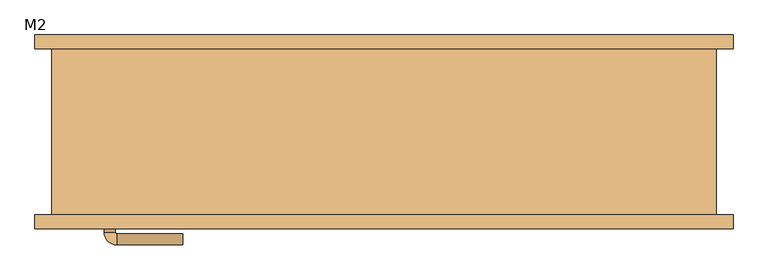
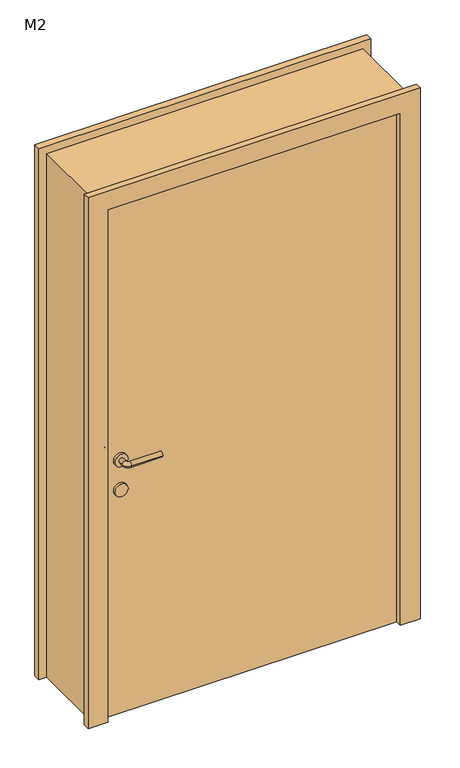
"""IFC4 building model written with IfcOpenShell, lengths in millimetres: door geometry, 单嵌板木门 1 : M2."""

from ifc_helpers import new_model, si_unit, point, frame, frame_2d, origin, origin_with_axes, place, context, project, spatial, polyline, circle_curve, ellipse_curve, trimmed, segment, composite_curve, outline, extrude, source, transform, mapped, element, save
from ifc_brep_helpers import plane_surface, cylinder_surface, revolved_surface, advanced_brep


def m2_fd2fcc41(model_context):
    return source(origin(), model_context, "Body", "SolidModel", [
        extrude(outline(composite_curve([segment(trimmed(circle_curve(frame_2d((900.0, -495.0)), 25.0), [point((900.0, -470.0))], [point((900.0, -520.0))], False, "CARTESIAN"), True, "CONTINUOUS"), segment(trimmed(circle_curve(frame_2d((900.0, -495.0)), 25.0), [point((900.0, -520.0))], [point((900.0, -470.0))], False, "CARTESIAN"), True, "CONTINUOUS")], self_intersect=False)), frame((0.0, -100.0, 0.0), z_axis=(0.0, 1.0, 0.0), x_axis=(0.0, 0.0, 1.0)), (0.0, 0.0, 1.0), 10.0),
        extrude(outline(composite_curve([segment(trimmed(circle_curve(frame_2d((900.0, -495.0)), 25.0), [point((900.0, -470.0))], [point((900.0, -520.0))], False, "CARTESIAN"), True, "CONTINUOUS"), segment(trimmed(circle_curve(frame_2d((900.0, -495.0)), 25.0), [point((900.0, -520.0))], [point((900.0, -470.0))], False, "CARTESIAN"), True, "CONTINUOUS")], self_intersect=False)), frame((0.0, -160.0, 0.0), z_axis=(0.0, 1.0, 0.0), x_axis=(0.0, 0.0, 1.0)), (0.0, 0.0, 1.0), 10.0),
        advanced_brep(
        [(-505.0, -90.0, 1020.0), (-485.0, -90.0, 1020.0), (-505.0, -69.3866449, 1020.0), (-485.0, -69.3866449, 1020.0), (-363.419036, -46.419036, 1020.0), (-363.419036, -66.419036, 1020.0), (-482.0323911, -66.419036, 1020.0), (-482.0323911, -46.419036, 1020.0)],
        [
            (0, 1, circle_curve(frame((-495.0, -90.0, 1020.0), z_axis=(0.0, -1.0, 0.0), x_axis=(1.0, 0.0, 0.0)), 10.0)),
            (1, 0, circle_curve(frame((-495.0, -90.0, 1020.0), z_axis=(0.0, -1.0, 0.0), x_axis=(1.0, 0.0, 0.0)), 10.0)),
            (0, 2),
            (2, 3, circle_curve(frame((-495.0, -69.3866449, 1020.0), z_axis=(0.0, -1.0, 0.0), x_axis=(1.0, 0.0, 0.0)), 10.0)),
            (3, 1),
            (3, 2, circle_curve(frame((-495.0, -69.3866449, 1020.0), z_axis=(0.0, -1.0, 0.0), x_axis=(1.0, 0.0, 0.0)), 10.0)),
            (4, 5, circle_curve(frame((-363.419036, -56.419036, 1020.0), z_axis=(1.0, 0.0, 0.0), x_axis=(0.0, -1.0, 0.0)), 10.0)),
            (5, 4, circle_curve(frame((-363.419036, -56.419036, 1020.0), z_axis=(1.0, 0.0, 0.0), x_axis=(0.0, -1.0, 0.0)), 10.0)),
            (6, 7, circle_curve(frame((-482.0323911, -56.419036, 1020.0), z_axis=(-1.0, 0.0, 0.0), x_axis=(0.0, -1.0, 0.0)), 10.0)),
            (7, 2, circle_curve(frame((-482.0323911, -69.3866449, 1020.0), z_axis=(0.0, 0.0, 1.0), x_axis=(-1.0, 0.0, 0.0)), 22.9676089)),
            (3, 6, circle_curve(frame((-482.0323911, -69.3866449, 1020.0), z_axis=(0.0, 0.0, -1.0), x_axis=(-1.0, 0.0, 0.0)), 2.9676089)),
            (7, 6, circle_curve(frame((-482.0323911, -56.419036, 1020.0), z_axis=(-1.0, 0.0, 0.0), x_axis=(0.0, -1.0, 0.0)), 10.0)),
            (6, 5),
            (4, 7),
        ],
        [
            plane_surface(frame((-495.0, -90.0, 900.0), z_axis=(0.0, -1.0, 0.0), x_axis=(0.0, 0.0, 1.0))),
            cylinder_surface(frame((-495.0, -90.0, 1020.0), z_axis=(0.0, -1.0, 0.0), x_axis=(1.0, 0.0, 0.0)), 10.0),
            plane_surface(frame((-363.419036, -56.419036, 900.0), z_axis=(1.0, 0.0, 0.0), x_axis=(0.0, 0.0, 1.0))),
            revolved_surface(trimmed(ellipse_curve(frame((-495.0, -69.3866449, 1020.0), z_axis=(0.0, 1.0, 0.0), x_axis=(1.0, 0.0, 0.0)), 10.0, 10.0), [point((-505.0, -69.3866449, 1020.0))], [point((-485.0, -69.3866449, 1020.0))], True, "CARTESIAN"), (-482.0323911, -69.3866449, 900.0), (0.0, 0.0, 1.0)),
            revolved_surface(trimmed(ellipse_curve(frame((-495.0, -69.3866449, 1020.0), z_axis=(0.0, 1.0, 0.0), x_axis=(1.0, 0.0, 0.0)), 10.0, 10.0), [point((-485.0, -69.3866449, 1020.0))], [point((-505.0, -69.3866449, 1020.0))], True, "CARTESIAN"), (-482.0323911, -69.3866449, 900.0), (0.0, 0.0, 1.0)),
            cylinder_surface(frame((-482.0323911, -56.419036, 1020.0), z_axis=(-1.0, 0.0, 0.0), x_axis=(0.0, -1.0, 0.0)), 10.0),
        ],
        [
            (0, [[1, 2]]),
            (1, [[3, 4, 5, -1]]),
            (1, [[-5, 6, -3, -2]]),
            (2, [[7, 8]]),
            (3, [[9, 10, -6, 11]]),
            (4, [[12, -11, -4, -10]]),
            (5, [[13, -7, 14, -9]]),
            (5, [[-14, -8, -13, -12]]),
        ],
    ),
        extrude(outline(composite_curve([segment(trimmed(circle_curve(frame_2d((1020.0, -495.0)), 25.0), [point((1020.0, -470.0))], [point((1020.0, -520.0))], False, "CARTESIAN"), True, "CONTINUOUS"), segment(trimmed(circle_curve(frame_2d((1020.0, -495.0)), 25.0), [point((1020.0, -520.0))], [point((1020.0, -470.0))], False, "CARTESIAN"), True, "CONTINUOUS")], self_intersect=False)), frame((0.0, -100.0, 0.0), z_axis=(0.0, 1.0, 0.0), x_axis=(0.0, 0.0, 1.0)), (0.0, 0.0, 1.0), 10.0),
        advanced_brep(
        [(-485.0, -160.0, 1020.0), (-505.0, -160.0, 1020.0), (-505.0, -180.6133551, 1020.0), (-485.0, -180.6133551, 1020.0), (-363.419036, -183.580964, 1020.0), (-363.419036, -203.580964, 1020.0), (-482.0323911, -203.580964, 1020.0), (-482.0323911, -183.580964, 1020.0)],
        [
            (0, 1, circle_curve(frame((-495.0, -160.0, 1020.0), z_axis=(0.0, 1.0, 0.0), x_axis=(-1.0, 0.0, 0.0)), 10.0)),
            (1, 0, circle_curve(frame((-495.0, -160.0, 1020.0), z_axis=(0.0, 1.0, 0.0), x_axis=(-1.0, 0.0, 0.0)), 10.0)),
            (1, 2),
            (2, 3, circle_curve(frame((-495.0, -180.6133551, 1020.0), z_axis=(0.0, 1.0, 0.0), x_axis=(-1.0, 0.0, 0.0)), 10.0)),
            (3, 0),
            (3, 2, circle_curve(frame((-495.0, -180.6133551, 1020.0), z_axis=(0.0, 1.0, 0.0), x_axis=(-1.0, 0.0, 0.0)), 10.0)),
            (4, 5, circle_curve(frame((-363.419036, -193.580964, 1020.0), z_axis=(1.0, 0.0, 0.0), x_axis=(0.0, -1.0, 0.0)), 10.0)),
            (5, 4, circle_curve(frame((-363.419036, -193.580964, 1020.0), z_axis=(1.0, 0.0, 0.0), x_axis=(0.0, -1.0, 0.0)), 10.0)),
            (6, 7, circle_curve(frame((-482.0323911, -193.580964, 1020.0), z_axis=(-1.0, 0.0, 0.0), x_axis=(0.0, -1.0, 0.0)), 10.0)),
            (7, 3, circle_curve(frame((-482.0323911, -180.6133551, 1020.0), z_axis=(0.0, 0.0, -1.0), x_axis=(-1.0, 0.0, 0.0)), 2.9676089)),
            (2, 6, circle_curve(frame((-482.0323911, -180.6133551, 1020.0), z_axis=(0.0, 0.0, 1.0), x_axis=(-1.0, 0.0, 0.0)), 22.9676089)),
            (7, 6, circle_curve(frame((-482.0323911, -193.580964, 1020.0), z_axis=(-1.0, 0.0, 0.0), x_axis=(0.0, -1.0, 0.0)), 10.0)),
            (6, 5),
            (4, 7),
        ],
        [
            plane_surface(frame((-495.0, -160.0, 900.0), z_axis=(0.0, 1.0, 0.0), x_axis=(0.0, 0.0, 1.0))),
            cylinder_surface(frame((-495.0, -160.0, 1020.0), z_axis=(0.0, 1.0, 0.0), x_axis=(-1.0, 0.0, 0.0)), 10.0),
            plane_surface(frame((-363.419036, -193.580964, 900.0), z_axis=(1.0, 0.0, 0.0), x_axis=(0.0, 0.0, 1.0))),
            revolved_surface(trimmed(ellipse_curve(frame((-495.0, -180.6133551, 1020.0), z_axis=(0.0, -1.0, 0.0), x_axis=(-1.0, 0.0, 0.0)), 10.0, 10.0), [point((-485.0, -180.6133551, 1020.0))], [point((-505.0, -180.6133551, 1020.0))], True, "CARTESIAN"), (-482.0323911, -180.6133551, 900.0), (0.0, 0.0, -1.0)),
            revolved_surface(trimmed(ellipse_curve(frame((-495.0, -180.6133551, 1020.0), z_axis=(0.0, -1.0, 0.0), x_axis=(-1.0, 0.0, 0.0)), 10.0, 10.0), [point((-505.0, -180.6133551, 1020.0))], [point((-485.0, -180.6133551, 1020.0))], True, "CARTESIAN"), (-482.0323911, -180.6133551, 900.0), (0.0, 0.0, -1.0)),
            cylinder_surface(frame((-482.0323911, -193.580964, 1020.0), z_axis=(-1.0, 0.0, 0.0), x_axis=(0.0, -1.0, 0.0)), 10.0),
        ],
        [
            (0, [[1, 2]]),
            (1, [[3, 4, 5, -2]]),
            (1, [[-5, 6, -3, -1]]),
            (2, [[7, 8]]),
            (3, [[9, 10, -4, 11]]),
            (4, [[12, -11, -6, -10]]),
            (5, [[13, -7, 14, -9]]),
            (5, [[-14, -8, -13, -12]]),
        ],
    ),
        extrude(outline(composite_curve([segment(trimmed(circle_curve(frame_2d((1020.0, -495.0)), 25.0), [point((1020.0, -470.0))], [point((1020.0, -520.0))], False, "CARTESIAN"), True, "CONTINUOUS"), segment(trimmed(circle_curve(frame_2d((1020.0, -495.0)), 25.0), [point((1020.0, -520.0))], [point((1020.0, -470.0))], False, "CARTESIAN"), True, "CONTINUOUS")], self_intersect=False)), frame((0.0, -160.0, 0.0), z_axis=(0.0, 1.0, 0.0), x_axis=(0.0, 0.0, 1.0)), (0.0, 0.0, 1.0), 10.0),
        extrude(outline(polyline([(0.0, 630.0), (2130.0, 630.0), (2130.0, -630.0), (0.0, -630.0), (0.0, -555.0), (2055.0, -555.0), (2055.0, 555.0), (0.0, 555.0), (0.0, 630.0)])), frame((0.0, -175.0, 0.0), z_axis=(0.0, 1.0, 0.0), x_axis=(0.0, 0.0, 1.0)), (0.0, 0.0, 1.0), 25.0),
        extrude(outline(polyline([(2130.0, 630.0), (2130.0, -630.0), (0.0, -630.0), (0.0, -555.0), (2055.0, -555.0), (2055.0, 555.0), (0.0, 555.0), (0.0, 630.0), (2130.0, 630.0)])), frame((0.0, 150.0, 0.0), z_axis=(0.0, 1.0, 0.0), x_axis=(0.0, 0.0, 1.0)), (0.0, 0.0, 1.0), 25.0),
        extrude(outline(polyline([(555.0, -100.0), (555.0, -150.0), (-555.0, -150.0), (-555.0, -100.0), (555.0, -100.0)])), origin_with_axes(), (0.0, 0.0, 1.0), 2055.0),
        extrude(outline(polyline([(2100.0, -600.0), (0.0, -600.0), (0.0, -555.0), (2055.0, -555.0), (2055.0, 555.0), (0.0, 555.0), (0.0, 600.0), (2100.0, 600.0), (2100.0, -600.0)])), frame((0.0, -150.0, 0.0), z_axis=(0.0, 1.0, 0.0), x_axis=(0.0, 0.0, 1.0)), (0.0, 0.0, 1.0), 300.0),
    ])


if __name__ == "__main__":
    model = new_model("IFC4")
    model_context = context("Model", 3, world=origin())
    ifc_project = project(units=[si_unit("LENGTHUNIT", "METRE", prefix="MILLI")], contexts=[model_context])
    site = spatial("IfcSite", under=ifc_project)
    building = spatial("IfcBuilding", under=site)
    placement = place(None, origin())
    m2_shape = m2_fd2fcc41(model_context)
    element("IfcDoor", 1, ObjectType="单嵌板木门 1 : M2", at=placement, inside=building, context=model_context, shape_type="MappedRepresentation", body=[
        mapped(m2_shape, transform((0.0, 0.0, 0.0), x_axis=(1.0, 0.0, 0.0), y_axis=(0.0, 1.0, 0.0), z_axis=(0.0, 0.0, 1.0))),
    ])
    save(model, "model.ifc")
